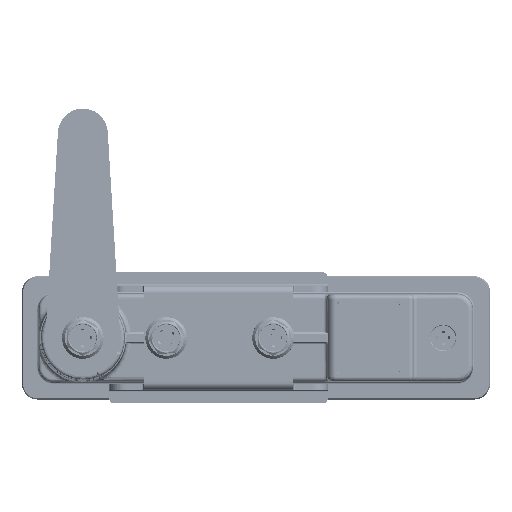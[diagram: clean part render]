
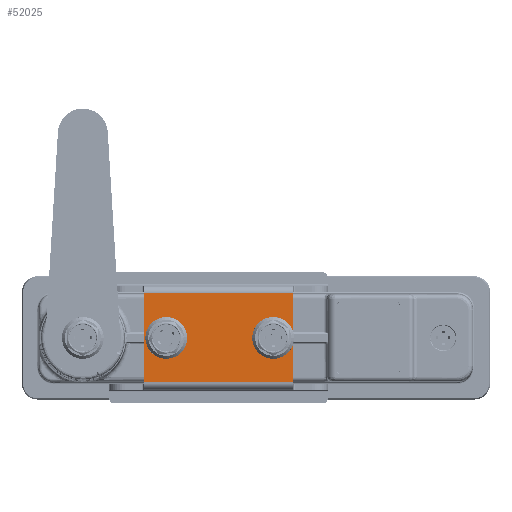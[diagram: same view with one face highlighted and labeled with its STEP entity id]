
A CAD part, front view. The second image highlights one B-rep face of the part: STEP entity #52025.
In plain terms, the highlighted planar face has unit normal (0, -1, 0) as drawn and (0, 0, 1) by its records, which use the part's own axes.
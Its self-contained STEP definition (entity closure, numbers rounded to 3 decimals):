
#955 = CARTESIAN_POINT ( 'NONE',  ( -14.252, 6.5, 2. ) ) ;
#2347 = EDGE_CURVE ( 'NONE', #3081, #91105, #23640, .T. ) ;
#2887 = VERTEX_POINT ( 'NONE', #47196 ) ;
#3081 = VERTEX_POINT ( 'NONE', #40671 ) ;
#7446 = EDGE_CURVE ( 'NONE', #2887, #3081, #96890, .T. ) ;
#9073 = EDGE_LOOP ( 'NONE', ( #157302, #64423, #62032, #23341 ) ) ;
#10870 = EDGE_CURVE ( 'NONE', #153114, #2887, #157345, .T. ) ;
#13576 = DIRECTION ( 'NONE',  ( -1., 0., 0. ) ) ;
#13946 = CARTESIAN_POINT ( 'NONE',  ( -14.252, 12.5, 2. ) ) ;
#14314 = VECTOR ( 'NONE', #76946, 1000. ) ;
#14398 = VECTOR ( 'NONE', #121494, 1000. ) ;
#16482 = ORIENTED_EDGE ( 'NONE', *, *, #130972, .T. ) ;
#16962 = CARTESIAN_POINT ( 'NONE',  ( 3., 0., 2. ) ) ;
#17502 = DIRECTION ( 'NONE',  ( 1., 0., 0. ) ) ;
#17910 = CIRCLE ( 'NONE', #36022, 3. ) ;
#18392 = DIRECTION ( 'NONE',  ( 0., 1., 0. ) ) ;
#21944 = AXIS2_PLACEMENT_3D ( 'NONE', #105950, #71006, #120511 ) ;
#23017 = CARTESIAN_POINT ( 'NONE',  ( -3., 0., 2. ) ) ;
#23341 = ORIENTED_EDGE ( 'NONE', *, *, #7446, .F. ) ;
#23640 = CIRCLE ( 'NONE', #47273, 3. ) ;
#24900 = CARTESIAN_POINT ( 'NONE',  ( -3., -34.25, 2. ) ) ;
#28514 = DIRECTION ( 'NONE',  ( 0., -1., 0. ) ) ;
#31642 = VERTEX_POINT ( 'NONE', #75271 ) ;
#33525 = FACE_OUTER_BOUND ( 'NONE', #154907, .T. ) ;
#35920 = PLANE ( 'NONE',  #132995 ) ;
#36022 = AXIS2_PLACEMENT_3D ( 'NONE', #53008, #51401, #136663 ) ;
#37706 = CARTESIAN_POINT ( 'NONE',  ( 14.252, -41.5, 2. ) ) ;
#37964 = DIRECTION ( 'NONE',  ( 0., 0., 1. ) ) ;
#40671 = CARTESIAN_POINT ( 'NONE',  ( 3., -34.25, 2. ) ) ;
#40712 = LINE ( 'NONE', #13946, #66028 ) ;
#41833 = CARTESIAN_POINT ( 'NONE',  ( 0., -35.75, 2. ) ) ;
#47196 = CARTESIAN_POINT ( 'NONE',  ( 3., -35.75, 2. ) ) ;
#47273 = AXIS2_PLACEMENT_3D ( 'NONE', #62387, #37964, #90016 ) ;
#47828 = DIRECTION ( 'NONE',  ( 1., 0., 0. ) ) ;
#51401 = DIRECTION ( 'NONE',  ( 0., 0., 1. ) ) ;
#52025 = ADVANCED_FACE ( 'NONE', ( #144826, #132634, #33525 ), #35920, .T. ) ;
#53008 = CARTESIAN_POINT ( 'NONE',  ( 0., 0., 2. ) ) ;
#57173 = CARTESIAN_POINT ( 'NONE',  ( -3., -35.75, 2. ) ) ;
#62032 = ORIENTED_EDGE ( 'NONE', *, *, #2347, .F. ) ;
#62387 = CARTESIAN_POINT ( 'NONE',  ( 0., -34.25, 2. ) ) ;
#62702 = VECTOR ( 'NONE', #13576, 1000. ) ;
#64423 = ORIENTED_EDGE ( 'NONE', *, *, #132905, .F. ) ;
#64688 = EDGE_CURVE ( 'NONE', #31642, #149755, #147701, .T. ) ;
#65036 = EDGE_CURVE ( 'NONE', #155158, #157279, #65564, .T. ) ;
#65564 = LINE ( 'NONE', #127279, #62702 ) ;
#66028 = VECTOR ( 'NONE', #28514, 1000. ) ;
#71006 = DIRECTION ( 'NONE',  ( 0., 0., 1. ) ) ;
#71996 = LINE ( 'NONE', #97939, #14398 ) ;
#74291 = ORIENTED_EDGE ( 'NONE', *, *, #108982, .T. ) ;
#75271 = CARTESIAN_POINT ( 'NONE',  ( -14.252, -41.5, 2. ) ) ;
#76499 = CIRCLE ( 'NONE', #21944, 3. ) ;
#76946 = DIRECTION ( 'NONE',  ( 0., 1., 0. ) ) ;
#77664 = DIRECTION ( 'NONE',  ( 0., 0., 1. ) ) ;
#84396 = EDGE_LOOP ( 'NONE', ( #135573, #113660 ) ) ;
#89093 = LINE ( 'NONE', #138593, #14314 ) ;
#90016 = DIRECTION ( 'NONE',  ( 1., 0., 0. ) ) ;
#91105 = VERTEX_POINT ( 'NONE', #24900 ) ;
#96890 = LINE ( 'NONE', #146401, #143622 ) ;
#97715 = DIRECTION ( 'NONE',  ( 1., 0., 0. ) ) ;
#97939 = CARTESIAN_POINT ( 'NONE',  ( -3., -35.75, 2. ) ) ;
#99659 = ORIENTED_EDGE ( 'NONE', *, *, #64688, .T. ) ;
#103462 = CARTESIAN_POINT ( 'NONE',  ( 14.252, 6.5, 2. ) ) ;
#104170 = ORIENTED_EDGE ( 'NONE', *, *, #65036, .T. ) ;
#105950 = CARTESIAN_POINT ( 'NONE',  ( 0., 0., 2. ) ) ;
#108982 = EDGE_CURVE ( 'NONE', #149755, #155158, #89093, .T. ) ;
#110733 = AXIS2_PLACEMENT_3D ( 'NONE', #41833, #77664, #17502 ) ;
#113660 = ORIENTED_EDGE ( 'NONE', *, *, #153960, .F. ) ;
#118916 = VERTEX_POINT ( 'NONE', #23017 ) ;
#119081 = EDGE_CURVE ( 'NONE', #147133, #118916, #17910, .T. ) ;
#120511 = DIRECTION ( 'NONE',  ( 1., 0., 0. ) ) ;
#121494 = DIRECTION ( 'NONE',  ( 0., -1., 0. ) ) ;
#127279 = CARTESIAN_POINT ( 'NONE',  ( -18., 6.5, 2. ) ) ;
#130972 = EDGE_CURVE ( 'NONE', #157279, #31642, #40712, .T. ) ;
#131850 = DIRECTION ( 'NONE',  ( 0., 0., 1. ) ) ;
#132634 = FACE_BOUND ( 'NONE', #9073, .T. ) ;
#132905 = EDGE_CURVE ( 'NONE', #91105, #153114, #71996, .T. ) ;
#132995 = AXIS2_PLACEMENT_3D ( 'NONE', #158588, #131850, #97715 ) ;
#135573 = ORIENTED_EDGE ( 'NONE', *, *, #119081, .F. ) ;
#136663 = DIRECTION ( 'NONE',  ( 1., 0., 0. ) ) ;
#138593 = CARTESIAN_POINT ( 'NONE',  ( 14.252, 12.5, 2. ) ) ;
#143622 = VECTOR ( 'NONE', #18392, 1000. ) ;
#144826 = FACE_BOUND ( 'NONE', #84396, .T. ) ;
#145563 = VECTOR ( 'NONE', #47828, 1000. ) ;
#146401 = CARTESIAN_POINT ( 'NONE',  ( 3., -35.75, 2. ) ) ;
#147133 = VERTEX_POINT ( 'NONE', #16962 ) ;
#147701 = LINE ( 'NONE', #159095, #145563 ) ;
#149755 = VERTEX_POINT ( 'NONE', #37706 ) ;
#153114 = VERTEX_POINT ( 'NONE', #57173 ) ;
#153960 = EDGE_CURVE ( 'NONE', #118916, #147133, #76499, .T. ) ;
#154907 = EDGE_LOOP ( 'NONE', ( #104170, #16482, #99659, #74291 ) ) ;
#155158 = VERTEX_POINT ( 'NONE', #103462 ) ;
#157279 = VERTEX_POINT ( 'NONE', #955 ) ;
#157302 = ORIENTED_EDGE ( 'NONE', *, *, #10870, .F. ) ;
#157345 = CIRCLE ( 'NONE', #110733, 3. ) ;
#158588 = CARTESIAN_POINT ( 'NONE',  ( -23.5, 12.5, 2. ) ) ;
#159095 = CARTESIAN_POINT ( 'NONE',  ( -18., -41.5, 2. ) ) ;
